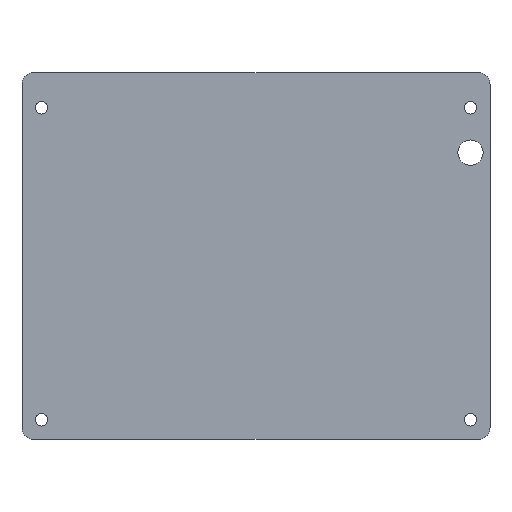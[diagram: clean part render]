
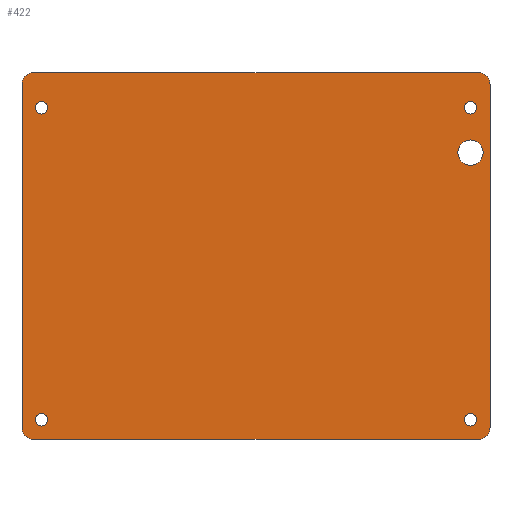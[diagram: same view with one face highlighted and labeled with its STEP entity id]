
A CAD part, front view. The second image highlights one B-rep face of the part: STEP entity #422.
In plain terms, the highlighted planar face has unit normal (0, -1, 0).
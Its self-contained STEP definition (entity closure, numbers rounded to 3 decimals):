
#5 = CIRCLE ( 'NONE', #374, 3.2 ) ;
#6 = CIRCLE ( 'NONE', #165, 6.5 ) ;
#10 = CARTESIAN_POINT ( 'NONE',  ( -114., -2., 94. ) ) ;
#11 = CARTESIAN_POINT ( 'NONE',  ( -114., -2., -94. ) ) ;
#12 = VERTEX_POINT ( 'NONE', #392 ) ;
#18 = CARTESIAN_POINT ( 'NONE',  ( 114., -2., 94. ) ) ;
#20 = CARTESIAN_POINT ( 'NONE',  ( 120., -2., 88. ) ) ;
#26 = EDGE_LOOP ( 'NONE', ( #466 ) ) ;
#44 = VERTEX_POINT ( 'NONE', #477 ) ;
#45 = DIRECTION ( 'NONE',  ( 0., -1., 0. ) ) ;
#50 = EDGE_CURVE ( 'NONE', #536, #300, #101, .T. ) ;
#54 = DIRECTION ( 'NONE',  ( 0., 1., 0. ) ) ;
#56 = EDGE_CURVE ( 'NONE', #192, #44, #78, .T. ) ;
#57 = VERTEX_POINT ( 'NONE', #515 ) ;
#61 = CARTESIAN_POINT ( 'NONE',  ( 114., -2., -88. ) ) ;
#65 = EDGE_LOOP ( 'NONE', ( #545, #209, #414, #341, #115, #290, #247, #377 ) ) ;
#67 = DIRECTION ( 'NONE',  ( 0., 0., 1. ) ) ;
#78 = CIRCLE ( 'NONE', #203, 6. ) ;
#79 = FACE_BOUND ( 'NONE', #401, .T. ) ;
#82 = EDGE_CURVE ( 'NONE', #12, #12, #143, .T. ) ;
#83 = VERTEX_POINT ( 'NONE', #180 ) ;
#85 = ORIENTED_EDGE ( 'NONE', *, *, #470, .T. ) ;
#90 = DIRECTION ( 'NONE',  ( 0., 0., 1. ) ) ;
#92 = EDGE_CURVE ( 'NONE', #57, #57, #453, .T. ) ;
#97 = VECTOR ( 'NONE', #104, 1000. ) ;
#100 = VERTEX_POINT ( 'NONE', #518 ) ;
#101 = LINE ( 'NONE', #482, #97 ) ;
#104 = DIRECTION ( 'NONE',  ( 0., 0., 1. ) ) ;
#107 = VERTEX_POINT ( 'NONE', #18 ) ;
#108 = DIRECTION ( 'NONE',  ( 0., 0., -1. ) ) ;
#109 = VERTEX_POINT ( 'NONE', #11 ) ;
#111 = CIRCLE ( 'NONE', #375, 3.2 ) ;
#115 = ORIENTED_EDGE ( 'NONE', *, *, #56, .F. ) ;
#118 = CARTESIAN_POINT ( 'NONE',  ( -114., -2., 88. ) ) ;
#123 = EDGE_LOOP ( 'NONE', ( #85 ) ) ;
#126 = DIRECTION ( 'NONE',  ( 0., 0., 1. ) ) ;
#127 = EDGE_LOOP ( 'NONE', ( #436 ) ) ;
#128 = LINE ( 'NONE', #198, #298 ) ;
#133 = LINE ( 'NONE', #255, #261 ) ;
#143 = CIRCLE ( 'NONE', #441, 3.2 ) ;
#163 = DIRECTION ( 'NONE',  ( 0., 0., -1. ) ) ;
#165 = AXIS2_PLACEMENT_3D ( 'NONE', #452, #334, #90 ) ;
#166 = DIRECTION ( 'NONE',  ( 0., 1., 0. ) ) ;
#170 = EDGE_LOOP ( 'NONE', ( #355 ) ) ;
#180 = CARTESIAN_POINT ( 'NONE',  ( -114., -2., 94. ) ) ;
#187 = VERTEX_POINT ( 'NONE', #303 ) ;
#192 = VERTEX_POINT ( 'NONE', #397 ) ;
#195 = CARTESIAN_POINT ( 'NONE',  ( -114., -2., 88. ) ) ;
#198 = CARTESIAN_POINT ( 'NONE',  ( 120., -2., 88. ) ) ;
#199 = VERTEX_POINT ( 'NONE', #20 ) ;
#200 = EDGE_CURVE ( 'NONE', #107, #199, #212, .T. ) ;
#201 = CARTESIAN_POINT ( 'NONE',  ( -114., -2., -88. ) ) ;
#203 = AXIS2_PLACEMENT_3D ( 'NONE', #61, #217, #426 ) ;
#205 = FACE_OUTER_BOUND ( 'NONE', #65, .T. ) ;
#209 = ORIENTED_EDGE ( 'NONE', *, *, #50, .F. ) ;
#212 = CIRCLE ( 'NONE', #521, 6. ) ;
#217 = DIRECTION ( 'NONE',  ( 0., 1., 0. ) ) ;
#221 = AXIS2_PLACEMENT_3D ( 'NONE', #201, #329, #539 ) ;
#222 = EDGE_CURVE ( 'NONE', #187, #187, #5, .T. ) ;
#223 = CARTESIAN_POINT ( 'NONE',  ( -110., -2., -84. ) ) ;
#227 = AXIS2_PLACEMENT_3D ( 'NONE', #195, #318, #108 ) ;
#229 = DIRECTION ( 'NONE',  ( 0., 1., 0. ) ) ;
#247 = ORIENTED_EDGE ( 'NONE', *, *, #200, .F. ) ;
#255 = CARTESIAN_POINT ( 'NONE',  ( -114., -2., -94. ) ) ;
#258 = VERTEX_POINT ( 'NONE', #435 ) ;
#261 = VECTOR ( 'NONE', #383, 1000. ) ;
#262 = LINE ( 'NONE', #10, #490 ) ;
#272 = EDGE_CURVE ( 'NONE', #300, #83, #331, .T. ) ;
#277 = DIRECTION ( 'NONE',  ( 0., 0., 1. ) ) ;
#290 = ORIENTED_EDGE ( 'NONE', *, *, #333, .F. ) ;
#298 = VECTOR ( 'NONE', #163, 1000. ) ;
#300 = VERTEX_POINT ( 'NONE', #338 ) ;
#303 = CARTESIAN_POINT ( 'NONE',  ( 110., -2., -80.8 ) ) ;
#313 = DIRECTION ( 'NONE',  ( 0., 0., 1. ) ) ;
#318 = DIRECTION ( 'NONE',  ( 0., 1., 0. ) ) ;
#325 = EDGE_CURVE ( 'NONE', #109, #536, #434, .T. ) ;
#329 = DIRECTION ( 'NONE',  ( 0., 1., 0. ) ) ;
#330 = ORIENTED_EDGE ( 'NONE', *, *, #405, .T. ) ;
#331 = CIRCLE ( 'NONE', #227, 6. ) ;
#333 = EDGE_CURVE ( 'NONE', #199, #192, #128, .T. ) ;
#334 = DIRECTION ( 'NONE',  ( 0., 1., 0. ) ) ;
#338 = CARTESIAN_POINT ( 'NONE',  ( -120., -2., 88. ) ) ;
#340 = FACE_BOUND ( 'NONE', #26, .T. ) ;
#341 = ORIENTED_EDGE ( 'NONE', *, *, #543, .F. ) ;
#349 = CARTESIAN_POINT ( 'NONE',  ( -110., -2., 76. ) ) ;
#355 = ORIENTED_EDGE ( 'NONE', *, *, #222, .T. ) ;
#374 = AXIS2_PLACEMENT_3D ( 'NONE', #407, #229, #277 ) ;
#375 = AXIS2_PLACEMENT_3D ( 'NONE', #544, #166, #126 ) ;
#377 = ORIENTED_EDGE ( 'NONE', *, *, #512, .F. ) ;
#378 = DIRECTION ( 'NONE',  ( 0., 0., -1. ) ) ;
#383 = DIRECTION ( 'NONE',  ( -1., 0., 0. ) ) ;
#387 = DIRECTION ( 'NONE',  ( 0., 0., 1. ) ) ;
#392 = CARTESIAN_POINT ( 'NONE',  ( -110., -2., -80.8 ) ) ;
#397 = CARTESIAN_POINT ( 'NONE',  ( 120., -2., -88. ) ) ;
#401 = EDGE_LOOP ( 'NONE', ( #330 ) ) ;
#402 = AXIS2_PLACEMENT_3D ( 'NONE', #118, #45, #378 ) ;
#405 = EDGE_CURVE ( 'NONE', #258, #258, #6, .T. ) ;
#407 = CARTESIAN_POINT ( 'NONE',  ( 110., -2., -84. ) ) ;
#408 = AXIS2_PLACEMENT_3D ( 'NONE', #349, #517, #387 ) ;
#414 = ORIENTED_EDGE ( 'NONE', *, *, #325, .F. ) ;
#416 = FACE_BOUND ( 'NONE', #127, .T. ) ;
#422 = ADVANCED_FACE ( 'NONE', ( #79, #416, #537, #423, #340, #205 ), #461, .T. ) ;
#423 = FACE_BOUND ( 'NONE', #123, .T. ) ;
#426 = DIRECTION ( 'NONE',  ( 0., 0., -1. ) ) ;
#432 = CARTESIAN_POINT ( 'NONE',  ( -120., -2., -88. ) ) ;
#434 = CIRCLE ( 'NONE', #221, 6. ) ;
#435 = CARTESIAN_POINT ( 'NONE',  ( 110., -2., 59.5 ) ) ;
#436 = ORIENTED_EDGE ( 'NONE', *, *, #82, .T. ) ;
#441 = AXIS2_PLACEMENT_3D ( 'NONE', #223, #54, #313 ) ;
#452 = CARTESIAN_POINT ( 'NONE',  ( 110., -2., 53. ) ) ;
#453 = CIRCLE ( 'NONE', #408, 3.2 ) ;
#461 = PLANE ( 'NONE',  #402 ) ;
#466 = ORIENTED_EDGE ( 'NONE', *, *, #92, .T. ) ;
#470 = EDGE_CURVE ( 'NONE', #100, #100, #111, .T. ) ;
#477 = CARTESIAN_POINT ( 'NONE',  ( 114., -2., -94. ) ) ;
#482 = CARTESIAN_POINT ( 'NONE',  ( -120., -2., 88. ) ) ;
#489 = DIRECTION ( 'NONE',  ( 0., 1., 0. ) ) ;
#490 = VECTOR ( 'NONE', #513, 1000. ) ;
#512 = EDGE_CURVE ( 'NONE', #83, #107, #262, .T. ) ;
#513 = DIRECTION ( 'NONE',  ( 1., 0., 0. ) ) ;
#515 = CARTESIAN_POINT ( 'NONE',  ( -110., -2., 79.2 ) ) ;
#517 = DIRECTION ( 'NONE',  ( 0., 1., 0. ) ) ;
#518 = CARTESIAN_POINT ( 'NONE',  ( 110., -2., 79.2 ) ) ;
#521 = AXIS2_PLACEMENT_3D ( 'NONE', #528, #489, #67 ) ;
#528 = CARTESIAN_POINT ( 'NONE',  ( 114., -2., 88. ) ) ;
#536 = VERTEX_POINT ( 'NONE', #432 ) ;
#537 = FACE_BOUND ( 'NONE', #170, .T. ) ;
#539 = DIRECTION ( 'NONE',  ( 0., 0., -1. ) ) ;
#543 = EDGE_CURVE ( 'NONE', #44, #109, #133, .T. ) ;
#544 = CARTESIAN_POINT ( 'NONE',  ( 110., -2., 76. ) ) ;
#545 = ORIENTED_EDGE ( 'NONE', *, *, #272, .F. ) ;
